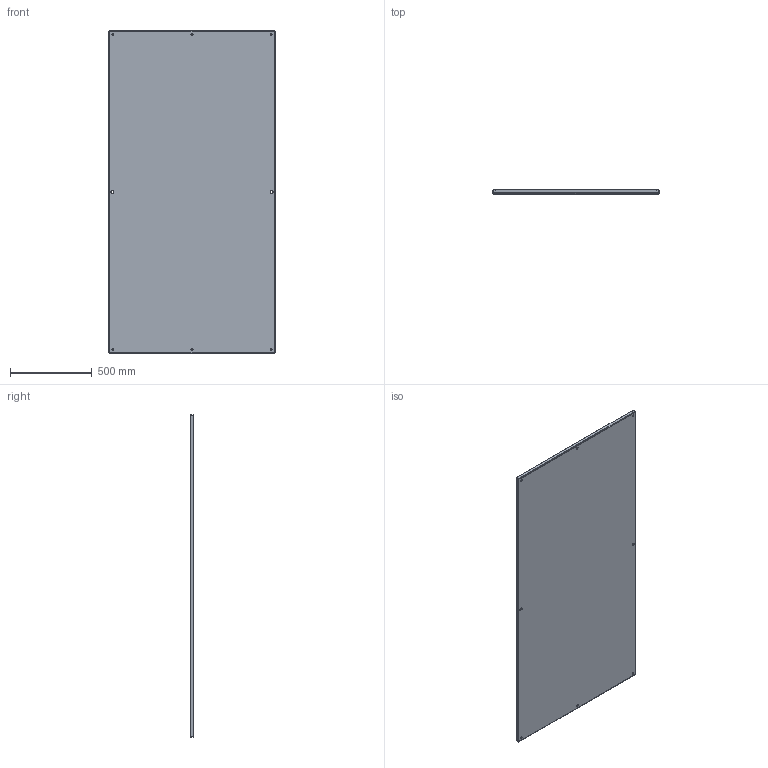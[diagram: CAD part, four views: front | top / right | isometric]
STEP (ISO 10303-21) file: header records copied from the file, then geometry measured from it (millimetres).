
FILE_DESCRIPTION( ( 'Unknown' ), '1' );
FILE_NAME( 'Q:/IME/WEB DRAWINGS/PANELS/INNER PANEL/STEP/IMEP2012.stp', 'Unknown', ( 'Unknown' ), ( 'Unknown' ), 'XStep 1.0', 'Unknown', ' ' );
FILE_SCHEMA( ( 'CONFIG_CONTROL_DESIGN' ) );
Length unit declared in the file: millimetre
Products named in the file (1): 1
Bounding box: 1016 x 22.23 x 1968.5 mm (x, y, z)
Volume: 6802153.3 mm3; surface area: 4305504 mm2
Topology: 1 solids, 1 shells, 76 faces, 204 edges, 130 vertices
Faces by surface type: plane 46, cylinder 22, bspline 8
Full cylindrical faces by diameter (mm): 12.7 x6
Entity records: 3372 total; most frequent: CARTESIAN_POINT 1513, ORIENTED_EDGE 384, DIRECTION 350, EDGE_CURVE 192, AXIS2_PLACEMENT_3D 129, VERTEX_POINT 124, EDGE_LOOP 98, LINE 92
